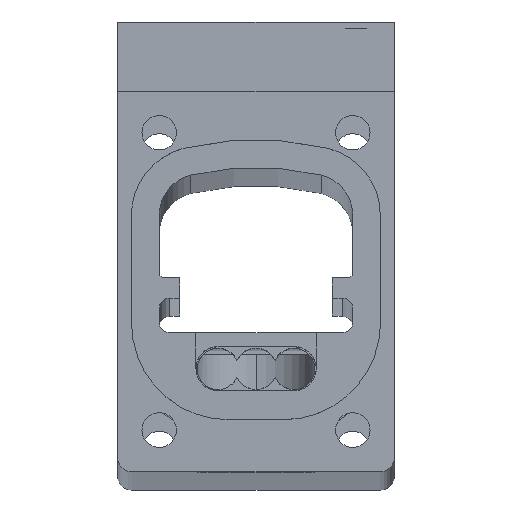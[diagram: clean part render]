
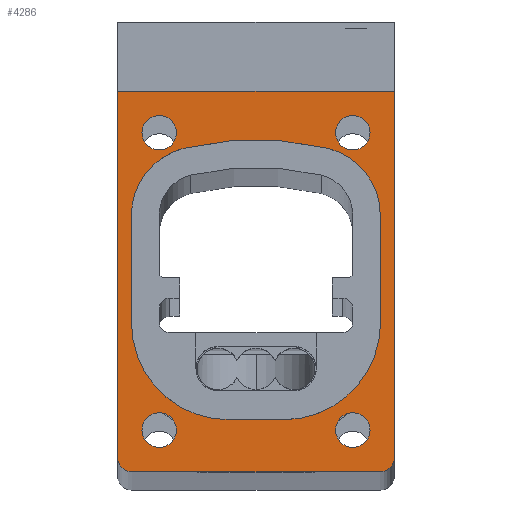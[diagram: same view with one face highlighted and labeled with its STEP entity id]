
A CAD part, top view. The second image highlights one B-rep face of the part: STEP entity #4286.
In plain terms, the highlighted planar face has unit normal (0, 0, 1).
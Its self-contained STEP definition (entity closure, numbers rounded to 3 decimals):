
#104=CARTESIAN_POINT('',(97.685,-1210.905,2818.523));
#105=DIRECTION('',(0.,0.,1.));
#106=DIRECTION('',(1.,0.,0.));
#107=AXIS2_PLACEMENT_3D('',#104,#105,#106);
#109=CARTESIAN_POINT('',(97.685,-1210.905,2818.523));
#110=DIRECTION('',(0.,0.,1.));
#111=DIRECTION('',(-1.,0.,0.));
#112=AXIS2_PLACEMENT_3D('',#109,#110,#111);
#114=CARTESIAN_POINT('',(111.685,-1210.905,2818.523));
#115=DIRECTION('',(0.,0.,1.));
#116=DIRECTION('',(1.,0.,0.));
#117=AXIS2_PLACEMENT_3D('',#114,#115,#116);
#119=CARTESIAN_POINT('',(111.685,-1210.905,2818.523));
#120=DIRECTION('',(0.,0.,1.));
#121=DIRECTION('',(-1.,0.,0.));
#122=AXIS2_PLACEMENT_3D('',#119,#120,#121);
#124=CARTESIAN_POINT('',(97.685,-1232.405,2818.523));
#125=DIRECTION('',(0.,0.,1.));
#126=DIRECTION('',(1.,0.,0.));
#127=AXIS2_PLACEMENT_3D('',#124,#125,#126);
#129=CARTESIAN_POINT('',(97.685,-1232.405,2818.523));
#130=DIRECTION('',(0.,0.,1.));
#131=DIRECTION('',(-1.,0.,0.));
#132=AXIS2_PLACEMENT_3D('',#129,#130,#131);
#134=CARTESIAN_POINT('',(111.685,-1232.405,2818.523));
#135=DIRECTION('',(0.,0.,1.));
#136=DIRECTION('',(1.,0.,0.));
#137=AXIS2_PLACEMENT_3D('',#134,#135,#136);
#139=CARTESIAN_POINT('',(111.685,-1232.405,2818.523));
#140=DIRECTION('',(0.,0.,1.));
#141=DIRECTION('',(-1.,0.,0.));
#142=AXIS2_PLACEMENT_3D('',#139,#140,#141);
#144=CARTESIAN_POINT('',(108.674,-1216.886,2818.523));
#145=DIRECTION('',(0.,0.,1.));
#146=DIRECTION('',(1.,0.001,0.));
#147=AXIS2_PLACEMENT_3D('',#144,#145,#146);
#149=CARTESIAN_POINT('',(104.67,-1233.405,2818.523));
#150=DIRECTION('',(0.,0.,1.));
#151=DIRECTION('',(0.235,0.972,0.));
#152=AXIS2_PLACEMENT_3D('',#149,#150,#151);
#154=CARTESIAN_POINT('',(100.674,-1216.879,2818.523));
#155=DIRECTION('',(0.,0.,1.));
#156=DIRECTION('',(-0.236,0.972,0.));
#157=AXIS2_PLACEMENT_3D('',#154,#155,#156);
#159=DIRECTION('',(0.001,-1.,0.));
#160=VECTOR('',#159,7.773);
#161=CARTESIAN_POINT('',(95.676,-1216.882,2818.523));
#162=LINE('',#161,#160);
#163=CARTESIAN_POINT('',(102.68,-1224.661,2818.523));
#164=DIRECTION('',(0.,0.,1.));
#165=DIRECTION('',(-1.,0.001,0.));
#166=AXIS2_PLACEMENT_3D('',#163,#164,#165);
#168=DIRECTION('',(1.,0.,0.));
#169=VECTOR('',#168,4.);
#170=CARTESIAN_POINT('',(102.668,-1231.655,2818.523));
#171=LINE('',#170,#169);
#172=CARTESIAN_POINT('',(106.68,-1224.65,2818.523));
#173=DIRECTION('',(0.,0.,1.));
#174=DIRECTION('',(-0.002,-1.,0.));
#175=AXIS2_PLACEMENT_3D('',#172,#173,#174);
#177=DIRECTION('',(-0.001,1.,0.));
#178=VECTOR('',#177,7.773);
#179=CARTESIAN_POINT('',(113.685,-1224.655,2818.523));
#180=LINE('',#179,#178);
#181=CARTESIAN_POINT('',(113.685,-1234.405,2818.523));
#182=DIRECTION('',(0.,0.,1.));
#183=DIRECTION('',(0.,-1.,0.));
#184=AXIS2_PLACEMENT_3D('',#181,#182,#183);
#186=DIRECTION('',(1.,0.,0.));
#187=VECTOR('',#186,18.);
#188=CARTESIAN_POINT('',(95.685,-1235.405,2818.523));
#189=LINE('',#188,#187);
#190=CARTESIAN_POINT('',(95.685,-1234.405,2818.523));
#191=DIRECTION('',(0.,0.,1.));
#192=DIRECTION('',(-1.,0.,0.));
#193=AXIS2_PLACEMENT_3D('',#190,#191,#192);
#195=DIRECTION('',(0.,-1.,0.));
#196=VECTOR('',#195,26.5);
#197=CARTESIAN_POINT('',(94.685,-1207.905,2818.523));
#198=LINE('',#197,#196);
#199=DIRECTION('',(1.,0.,0.));
#200=VECTOR('',#199,20.);
#201=CARTESIAN_POINT('',(94.685,-1207.905,2818.523));
#202=LINE('',#201,#200);
#203=DIRECTION('',(0.,1.,0.));
#204=VECTOR('',#203,26.5);
#205=CARTESIAN_POINT('',(114.685,-1234.405,2818.523));
#206=LINE('',#205,#204);
#3506=CARTESIAN_POINT('',(94.685,-1207.905,2818.523));
#3507=CARTESIAN_POINT('',(114.685,-1207.905,2818.523));
#3508=VERTEX_POINT('',#3506);
#3509=VERTEX_POINT('',#3507);
#3534=CARTESIAN_POINT('',(98.935,-1210.905,2818.523));
#3535=CARTESIAN_POINT('',(96.435,-1210.905,2818.523));
#3536=VERTEX_POINT('',#3534);
#3537=VERTEX_POINT('',#3535);
#3538=CARTESIAN_POINT('',(112.935,-1210.905,2818.523));
#3539=CARTESIAN_POINT('',(110.435,-1210.905,2818.523));
#3540=VERTEX_POINT('',#3538);
#3541=VERTEX_POINT('',#3539);
#3542=CARTESIAN_POINT('',(98.935,-1232.405,2818.523));
#3543=CARTESIAN_POINT('',(96.435,-1232.405,2818.523));
#3544=VERTEX_POINT('',#3542);
#3545=VERTEX_POINT('',#3543);
#3546=CARTESIAN_POINT('',(112.935,-1232.405,2818.523));
#3547=CARTESIAN_POINT('',(110.435,-1232.405,2818.523));
#3548=VERTEX_POINT('',#3546);
#3549=VERTEX_POINT('',#3547);
#3566=CARTESIAN_POINT('',(113.676,-1216.882,2818.523));
#3567=CARTESIAN_POINT('',(109.845,-1212.022,2818.523));
#3568=VERTEX_POINT('',#3566);
#3569=VERTEX_POINT('',#3567);
#3570=CARTESIAN_POINT('',(99.492,-1212.023,2818.523));
#3571=VERTEX_POINT('',#3570);
#3572=CARTESIAN_POINT('',(95.676,-1216.882,2818.523));
#3573=VERTEX_POINT('',#3572);
#3574=CARTESIAN_POINT('',(95.685,-1224.655,2818.523));
#3575=VERTEX_POINT('',#3574);
#3576=CARTESIAN_POINT('',(102.668,-1231.655,2818.523));
#3577=VERTEX_POINT('',#3576);
#3578=CARTESIAN_POINT('',(106.668,-1231.656,2818.523));
#3579=VERTEX_POINT('',#3578);
#3580=CARTESIAN_POINT('',(113.685,-1224.655,2818.523));
#3581=VERTEX_POINT('',#3580);
#3805=CARTESIAN_POINT('',(113.685,-1235.405,2818.523));
#3806=VERTEX_POINT('',#3805);
#3807=CARTESIAN_POINT('',(114.685,-1234.405,2818.523));
#3808=VERTEX_POINT('',#3807);
#3813=CARTESIAN_POINT('',(94.685,-1234.405,2818.523));
#3814=VERTEX_POINT('',#3813);
#3815=CARTESIAN_POINT('',(95.685,-1235.405,2818.523));
#3816=VERTEX_POINT('',#3815);
#4225=CARTESIAN_POINT('',(104.685,-1220.405,2818.523));
#4226=DIRECTION('',(0.,0.,1.));
#4227=DIRECTION('',(1.,0.,0.));
#4228=AXIS2_PLACEMENT_3D('',#4225,#4226,#4227);
#4229=PLANE('',#4228);
#4231=ORIENTED_EDGE('',*,*,#4230,.F.);
#4233=ORIENTED_EDGE('',*,*,#4232,.F.);
#4235=ORIENTED_EDGE('',*,*,#4234,.F.);
#4237=ORIENTED_EDGE('',*,*,#4236,.F.);
#4239=ORIENTED_EDGE('',*,*,#4238,.T.);
#4241=ORIENTED_EDGE('',*,*,#4240,.F.);
#4242=EDGE_LOOP('',(#4231,#4233,#4235,#4237,#4239,#4241));
#4243=FACE_OUTER_BOUND('',#4242,.F.);
#4245=ORIENTED_EDGE('',*,*,#4244,.T.);
#4247=ORIENTED_EDGE('',*,*,#4246,.T.);
#4248=EDGE_LOOP('',(#4245,#4247));
#4249=FACE_BOUND('',#4248,.F.);
#4251=ORIENTED_EDGE('',*,*,#4250,.T.);
#4253=ORIENTED_EDGE('',*,*,#4252,.T.);
#4254=EDGE_LOOP('',(#4251,#4253));
#4255=FACE_BOUND('',#4254,.F.);
#4257=ORIENTED_EDGE('',*,*,#4256,.T.);
#4259=ORIENTED_EDGE('',*,*,#4258,.T.);
#4260=EDGE_LOOP('',(#4257,#4259));
#4261=FACE_BOUND('',#4260,.F.);
#4263=ORIENTED_EDGE('',*,*,#4262,.T.);
#4265=ORIENTED_EDGE('',*,*,#4264,.T.);
#4267=ORIENTED_EDGE('',*,*,#4266,.T.);
#4269=ORIENTED_EDGE('',*,*,#4268,.T.);
#4271=ORIENTED_EDGE('',*,*,#4270,.T.);
#4273=ORIENTED_EDGE('',*,*,#4272,.T.);
#4275=ORIENTED_EDGE('',*,*,#4274,.T.);
#4277=ORIENTED_EDGE('',*,*,#4276,.T.);
#4278=EDGE_LOOP('',(#4263,#4265,#4267,#4269,#4271,#4273,#4275,#4277));
#4279=FACE_BOUND('',#4278,.F.);
#4281=ORIENTED_EDGE('',*,*,#4280,.T.);
#4283=ORIENTED_EDGE('',*,*,#4282,.T.);
#4284=EDGE_LOOP('',(#4281,#4283));
#4285=FACE_BOUND('',#4284,.F.);
#4286=ADVANCED_FACE('',(#4243,#4249,#4255,#4261,#4279,#4285),#4229,.T.);
#108=CIRCLE('',#107,1.25);
#113=CIRCLE('',#112,1.25);
#118=CIRCLE('',#117,1.25);
#123=CIRCLE('',#122,1.25);
#128=CIRCLE('',#127,1.25);
#133=CIRCLE('',#132,1.25);
#138=CIRCLE('',#137,1.25);
#143=CIRCLE('',#142,1.25);
#148=CIRCLE('',#147,5.002);
#153=CIRCLE('',#152,22.);
#158=CIRCLE('',#157,4.998);
#167=CIRCLE('',#166,6.994);
#176=CIRCLE('',#175,7.006);
#185=CIRCLE('',#184,1.);
#194=CIRCLE('',#193,1.);
#4230=EDGE_CURVE('',#3806,#3808,#185,.T.);
#4232=EDGE_CURVE('',#3816,#3806,#189,.T.);
#4234=EDGE_CURVE('',#3814,#3816,#194,.T.);
#4236=EDGE_CURVE('',#3508,#3814,#198,.T.);
#4238=EDGE_CURVE('',#3508,#3509,#202,.T.);
#4240=EDGE_CURVE('',#3808,#3509,#206,.T.);
#4244=EDGE_CURVE('',#3540,#3541,#118,.T.);
#4246=EDGE_CURVE('',#3541,#3540,#123,.T.);
#4250=EDGE_CURVE('',#3544,#3545,#128,.T.);
#4252=EDGE_CURVE('',#3545,#3544,#133,.T.);
#4256=EDGE_CURVE('',#3548,#3549,#138,.T.);
#4258=EDGE_CURVE('',#3549,#3548,#143,.T.);
#4262=EDGE_CURVE('',#3568,#3569,#148,.T.);
#4264=EDGE_CURVE('',#3569,#3571,#153,.T.);
#4266=EDGE_CURVE('',#3571,#3573,#158,.T.);
#4268=EDGE_CURVE('',#3573,#3575,#162,.T.);
#4270=EDGE_CURVE('',#3575,#3577,#167,.T.);
#4272=EDGE_CURVE('',#3577,#3579,#171,.T.);
#4274=EDGE_CURVE('',#3579,#3581,#176,.T.);
#4276=EDGE_CURVE('',#3581,#3568,#180,.T.);
#4280=EDGE_CURVE('',#3536,#3537,#108,.T.);
#4282=EDGE_CURVE('',#3537,#3536,#113,.T.);
